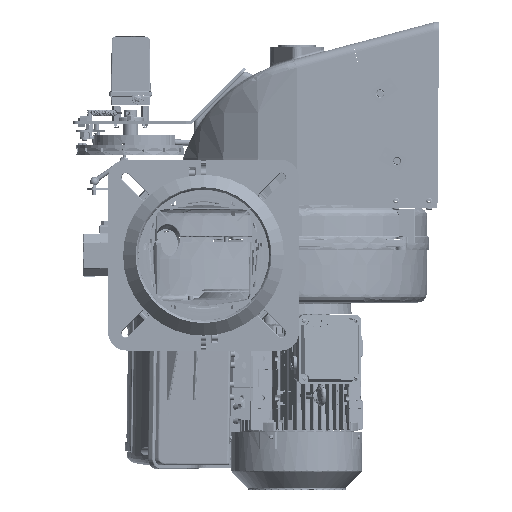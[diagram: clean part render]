
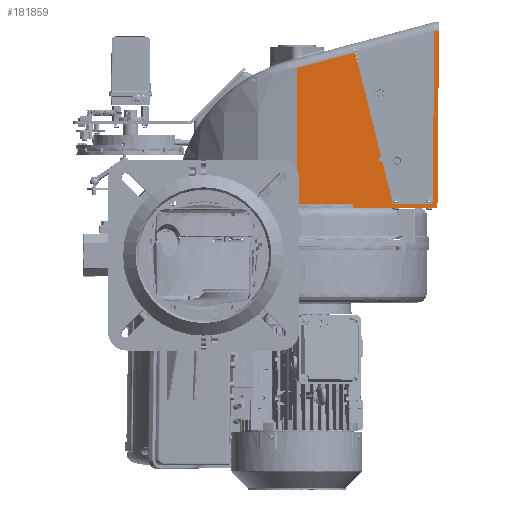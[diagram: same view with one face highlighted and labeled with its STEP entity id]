
A CAD part, left-side view. The second image highlights one B-rep face of the part: STEP entity #181859.
In plain terms, the highlighted planar face has unit normal (-1, 0, 0.018).
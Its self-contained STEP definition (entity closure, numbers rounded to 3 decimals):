
#10632 = VERTEX_POINT ( 'NONE', #122800 ) ;
#11976 = DIRECTION ( 'NONE',  ( 1., 0., -0.017 ) ) ;
#14198 =( BOUNDED_CURVE ( )  B_SPLINE_CURVE ( 3, ( #37355, #72384, #316605, #107488 ),
 .UNSPECIFIED., .F., .F. ) 
 B_SPLINE_CURVE_WITH_KNOTS ( ( 4, 4 ),
 ( 0., 1.562 ),
 .UNSPECIFIED. ) 
 CURVE ( )  GEOMETRIC_REPRESENTATION_ITEM ( )  RATIONAL_B_SPLINE_CURVE ( ( 1., 0.807, 0.807, 1. ) ) 
 REPRESENTATION_ITEM ( '' )  );
#15083 = DIRECTION ( 'NONE',  ( 0.017, 0., 1. ) ) ;
#15198 = VECTOR ( 'NONE', #119553, 1000. ) ;
#17395 = CARTESIAN_POINT ( 'NONE',  ( -193., -235., 59.5 ) ) ;
#20514 = EDGE_CURVE ( 'NONE', #284447, #163142, #73334, .T. ) ;
#24525 = VERTEX_POINT ( 'NONE', #233166 ) ;
#28143 = CARTESIAN_POINT ( 'NONE',  ( -192.895, -223.096, 65.498 ) ) ;
#28769 = VERTEX_POINT ( 'NONE', #100036 ) ;
#37355 = CARTESIAN_POINT ( 'NONE',  ( -193., -234.017, 59.5 ) ) ;
#41423 = VERTEX_POINT ( 'NONE', #247259 ) ;
#46204 = VERTEX_POINT ( 'NONE', #48173 ) ;
#48173 = CARTESIAN_POINT ( 'NONE',  ( -187.815, -230.592, 356.564 ) ) ;
#51580 = CARTESIAN_POINT ( 'NONE',  ( -193., -94.742, 59.5 ) ) ;
#55710 = CARTESIAN_POINT ( 'NONE',  ( -192.878, -94.919, 66.465 ) ) ;
#67768 = DIRECTION ( 'NONE',  ( 0., -1., 0. ) ) ;
#72384 = CARTESIAN_POINT ( 'NONE',  ( -193., -235.181, 59.5 ) ) ;
#73334 = LINE ( 'NONE', #55710, #258984 ) ;
#75914 = VERTEX_POINT ( 'NONE', #397895 ) ;
#79841 = VECTOR ( 'NONE', #293168, 1000. ) ;
#84463 = CARTESIAN_POINT ( 'NONE',  ( -192.999, -228.001, 59.561 ) ) ;
#87550 = LINE ( 'NONE', #253239, #262182 ) ;
#88235 = CARTESIAN_POINT ( 'NONE',  ( -192.895, -161.382, 65.498 ) ) ;
#98813 = CIRCLE ( 'NONE', #329167, 5. ) ;
#100036 = CARTESIAN_POINT ( 'NONE',  ( -192.965, -236.017, 61.483 ) ) ;
#104808 = AXIS2_PLACEMENT_3D ( 'NONE', #408062, #198833, #443125 ) ;
#107488 = CARTESIAN_POINT ( 'NONE',  ( -192.965, -236.017, 61.483 ) ) ;
#110820 = DIRECTION ( 'NONE',  ( -0.017, 0.009, -1. ) ) ;
#117297 = ORIENTED_EDGE ( 'NONE', *, *, #144165, .F. ) ;
#118864 = CARTESIAN_POINT ( 'NONE',  ( -193., -235., 59.5 ) ) ;
#119553 = DIRECTION ( 'NONE',  ( -0.017, 0.009, -1. ) ) ;
#121878 = EDGE_CURVE ( 'NONE', #151762, #440874, #87550, .T. ) ;
#122800 = CARTESIAN_POINT ( 'NONE',  ( -192.895, -165.289, 65.498 ) ) ;
#123279 = DIRECTION ( 'NONE',  ( -0.017, -0.242, -0.97 ) ) ;
#125125 = AXIS2_PLACEMENT_3D ( 'NONE', #118864, #224132, #15083 ) ;
#126188 = ORIENTED_EDGE ( 'NONE', *, *, #20514, .T. ) ;
#134402 = CARTESIAN_POINT ( 'NONE',  ( -193., 0., 59.5 ) ) ;
#134644 = EDGE_CURVE ( 'NONE', #408744, #41423, #444546, .T. ) ;
#136531 = EDGE_CURVE ( 'NONE', #151762, #24525, #186161, .T. ) ;
#138888 = ORIENTED_EDGE ( 'NONE', *, *, #220786, .T. ) ;
#143316 = ORIENTED_EDGE ( 'NONE', *, *, #176757, .F. ) ;
#144165 = EDGE_CURVE ( 'NONE', #10632, #300684, #212470, .T. ) ;
#147545 = ORIENTED_EDGE ( 'NONE', *, *, #283145, .F. ) ;
#151642 = EDGE_CURVE ( 'NONE', #10632, #24525, #98813, .T. ) ;
#151762 = VERTEX_POINT ( 'NONE', #362933 ) ;
#156745 = CARTESIAN_POINT ( 'NONE',  ( -192.878, -94.989, 66.465 ) ) ;
#157581 = VECTOR ( 'NONE', #110820, 1000. ) ;
#163142 = VERTEX_POINT ( 'NONE', #211583 ) ;
#168545 = LINE ( 'NONE', #214582, #157581 ) ;
#174722 = EDGE_LOOP ( 'NONE', ( #408171, #216113, #117297, #447880, #324284, #224359, #240966, #126188, #143316, #352812, #223460, #147545, #138888 ) ) ;
#176757 = EDGE_CURVE ( 'NONE', #41423, #163142, #249319, .T. ) ;
#181859 = ADVANCED_FACE ( 'NONE', ( #208972 ), #222642, .T. ) ;
#186161 = LINE ( 'NONE', #88235, #360931 ) ;
#198833 = DIRECTION ( 'NONE',  ( 1., 0., -0.017 ) ) ;
#200767 = LINE ( 'NONE', #84463, #15198 ) ;
#205360 = LINE ( 'NONE', #258028, #79841 ) ;
#208630 = CARTESIAN_POINT ( 'NONE',  ( -193., -234.017, 59.5 ) ) ;
#208972 = FACE_OUTER_BOUND ( 'NONE', #174722, .T. ) ;
#211583 = CARTESIAN_POINT ( 'NONE',  ( -192.878, -94.989, 66.465 ) ) ;
#212470 = LINE ( 'NONE', #276781, #294433 ) ;
#214345 = EDGE_CURVE ( 'NONE', #408744, #28769, #14198, .T. ) ;
#214582 = CARTESIAN_POINT ( 'NONE',  ( -187.557, -238.721, 371.302 ) ) ;
#216113 = ORIENTED_EDGE ( 'NONE', *, *, #271761, .T. ) ;
#220786 = EDGE_CURVE ( 'NONE', #395521, #46204, #205360, .T. ) ;
#221030 = CARTESIAN_POINT ( 'NONE',  ( -192.808, -165.289, 70.498 ) ) ;
#222642 = PLANE ( 'NONE',  #125125 ) ;
#223460 = ORIENTED_EDGE ( 'NONE', *, *, #214345, .T. ) ;
#224132 = DIRECTION ( 'NONE',  ( -1., 0., 0.017 ) ) ;
#224359 = ORIENTED_EDGE ( 'NONE', *, *, #121878, .T. ) ;
#233166 = CARTESIAN_POINT ( 'NONE',  ( -192.829, -160.437, 69.288 ) ) ;
#240966 = ORIENTED_EDGE ( 'NONE', *, *, #392595, .T. ) ;
#247259 = CARTESIAN_POINT ( 'NONE',  ( -193., -94.742, 59.5 ) ) ;
#248233 = CARTESIAN_POINT ( 'NONE',  ( -187.815, -238.592, 356.564 ) ) ;
#249319 =( BOUNDED_CURVE ( )  B_SPLINE_CURVE ( 3, ( #51580, #260558, #365937, #156745 ),
 .UNSPECIFIED., .F., .F. ) 
 B_SPLINE_CURVE_WITH_KNOTS ( ( 4, 4 ),
 ( 0.456, 0.458 ),
 .UNSPECIFIED. ) 
 CURVE ( )  GEOMETRIC_REPRESENTATION_ITEM ( )  RATIONAL_B_SPLINE_CURVE ( ( 1., 1., 1., 1. ) ) 
 REPRESENTATION_ITEM ( '' )  );
#253239 = CARTESIAN_POINT ( 'NONE',  ( -188.884, -3.818, 295.288 ) ) ;
#256066 = DIRECTION ( 'NONE',  ( 0.017, 0., 1. ) ) ;
#258028 = CARTESIAN_POINT ( 'NONE',  ( -187.815, -235., 356.564 ) ) ;
#258984 = VECTOR ( 'NONE', #335023, 1000. ) ;
#260558 = CARTESIAN_POINT ( 'NONE',  ( -192.96, -94.824, 61.819 ) ) ;
#262182 = VECTOR ( 'NONE', #427303, 1000. ) ;
#271761 = EDGE_CURVE ( 'NONE', #75914, #300684, #432275, .T. ) ;
#276781 = CARTESIAN_POINT ( 'NONE',  ( -192.895, -228.052, 65.498 ) ) ;
#283145 = EDGE_CURVE ( 'NONE', #395521, #28769, #168545, .T. ) ;
#284447 = VERTEX_POINT ( 'NONE', #313772 ) ;
#293168 = DIRECTION ( 'NONE',  ( 0., 1., 0. ) ) ;
#294433 = VECTOR ( 'NONE', #67768, 1000. ) ;
#296665 = DIRECTION ( 'NONE',  ( 0., 1., 0. ) ) ;
#300684 = VERTEX_POINT ( 'NONE', #28143 ) ;
#313772 = CARTESIAN_POINT ( 'NONE',  ( -192.878, 0., 66.465 ) ) ;
#316605 = CARTESIAN_POINT ( 'NONE',  ( -192.986, -236.007, 60.319 ) ) ;
#324284 = ORIENTED_EDGE ( 'NONE', *, *, #136531, .F. ) ;
#329167 = AXIS2_PLACEMENT_3D ( 'NONE', #221030, #11976, #256066 ) ;
#335023 = DIRECTION ( 'NONE',  ( 0., -1., 0. ) ) ;
#352812 = ORIENTED_EDGE ( 'NONE', *, *, #134644, .F. ) ;
#360931 = VECTOR ( 'NONE', #123279, 1000. ) ;
#362055 = VECTOR ( 'NONE', #413777, 1000. ) ;
#362933 = CARTESIAN_POINT ( 'NONE',  ( -188.445, -97.81, 320.473 ) ) ;
#365937 = CARTESIAN_POINT ( 'NONE',  ( -192.919, -94.907, 64.14 ) ) ;
#368010 = EDGE_CURVE ( 'NONE', #46204, #75914, #200767, .T. ) ;
#392595 = EDGE_CURVE ( 'NONE', #440874, #284447, #443948, .T. ) ;
#395521 = VERTEX_POINT ( 'NONE', #248233 ) ;
#397895 = CARTESIAN_POINT ( 'NONE',  ( -192.809, -228.096, 70.454 ) ) ;
#408062 = CARTESIAN_POINT ( 'NONE',  ( -192.808, -223.096, 70.498 ) ) ;
#408171 = ORIENTED_EDGE ( 'NONE', *, *, #368010, .T. ) ;
#408744 = VERTEX_POINT ( 'NONE', #208630 ) ;
#413777 = DIRECTION ( 'NONE',  ( -0.017, 0., -1. ) ) ;
#427303 = DIRECTION ( 'NONE',  ( -0.005, 0.966, -0.259 ) ) ;
#430615 = CARTESIAN_POINT ( 'NONE',  ( -188.902, 0., 294.265 ) ) ;
#432275 = CIRCLE ( 'NONE', #104808, 5. ) ;
#433583 = VECTOR ( 'NONE', #296665, 1000. ) ;
#440874 = VERTEX_POINT ( 'NONE', #430615 ) ;
#443125 = DIRECTION ( 'NONE',  ( 0.017, 0., 1. ) ) ;
#443948 = LINE ( 'NONE', #134402, #362055 ) ;
#444546 = LINE ( 'NONE', #17395, #433583 ) ;
#447880 = ORIENTED_EDGE ( 'NONE', *, *, #151642, .T. ) ;
